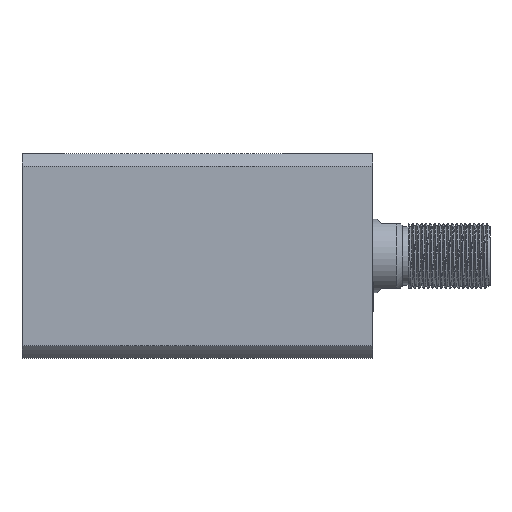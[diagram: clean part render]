
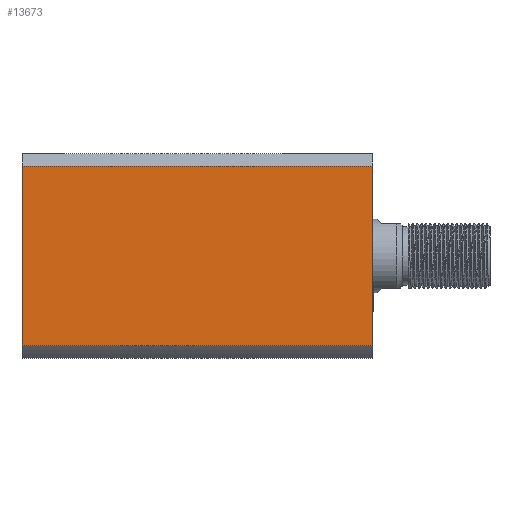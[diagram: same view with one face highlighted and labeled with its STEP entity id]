
A CAD part, left-side view. The second image highlights one B-rep face of the part: STEP entity #13673.
In plain terms, the highlighted planar face has unit normal (-1, 0, 0).
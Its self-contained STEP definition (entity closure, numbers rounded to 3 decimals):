
#84 = CARTESIAN_POINT ( 'NONE',  ( -35., -30.615, 300. ) ) ;
#259 = CARTESIAN_POINT ( 'NONE',  ( -35., 35., 120. ) ) ;
#528 = CARTESIAN_POINT ( 'NONE',  ( -35., 30.615, 0. ) ) ;
#836 = CARTESIAN_POINT ( 'NONE',  ( -35., -30.615, 0. ) ) ;
#1592 = EDGE_LOOP ( 'NONE', ( #13604, #8657, #6106, #12008 ) ) ;
#2096 = VECTOR ( 'NONE', #3049, 1000. ) ;
#2451 = LINE ( 'NONE', #11174, #10527 ) ;
#3049 = DIRECTION ( 'NONE',  ( 0., -1., 0. ) ) ;
#3539 = CARTESIAN_POINT ( 'NONE',  ( -35., -30.615, 120. ) ) ;
#4140 = EDGE_CURVE ( 'NONE', #12681, #12009, #2451, .T. ) ;
#4289 = VERTEX_POINT ( 'NONE', #836 ) ;
#4585 = PLANE ( 'NONE',  #5879 ) ;
#5498 = DIRECTION ( 'NONE',  ( 0., -1., 0. ) ) ;
#5667 = DIRECTION ( 'NONE',  ( 0., 1., 0. ) ) ;
#5879 = AXIS2_PLACEMENT_3D ( 'NONE', #259, #11942, #5667 ) ;
#6106 = ORIENTED_EDGE ( 'NONE', *, *, #4140, .F. ) ;
#6190 = VECTOR ( 'NONE', #11680, 1000. ) ;
#6526 = LINE ( 'NONE', #84, #6190 ) ;
#6725 = EDGE_CURVE ( 'NONE', #10696, #4289, #6526, .T. ) ;
#6741 = CARTESIAN_POINT ( 'NONE',  ( -35., 30.615, 120. ) ) ;
#8657 = ORIENTED_EDGE ( 'NONE', *, *, #13603, .F. ) ;
#9570 = FACE_OUTER_BOUND ( 'NONE', #1592, .T. ) ;
#9688 = CARTESIAN_POINT ( 'NONE',  ( -35., 35., 120. ) ) ;
#9885 = LINE ( 'NONE', #9688, #12359 ) ;
#10400 = CARTESIAN_POINT ( 'NONE',  ( -35., 35., 0. ) ) ;
#10527 = VECTOR ( 'NONE', #12227, 1000. ) ;
#10696 = VERTEX_POINT ( 'NONE', #3539 ) ;
#11174 = CARTESIAN_POINT ( 'NONE',  ( -35., 30.615, 300. ) ) ;
#11680 = DIRECTION ( 'NONE',  ( 0., 0., -1. ) ) ;
#11709 = EDGE_CURVE ( 'NONE', #12681, #4289, #13339, .T. ) ;
#11942 = DIRECTION ( 'NONE',  ( 1., 0., 0. ) ) ;
#12008 = ORIENTED_EDGE ( 'NONE', *, *, #11709, .T. ) ;
#12009 = VERTEX_POINT ( 'NONE', #6741 ) ;
#12227 = DIRECTION ( 'NONE',  ( 0., 0., 1. ) ) ;
#12359 = VECTOR ( 'NONE', #5498, 1000. ) ;
#12681 = VERTEX_POINT ( 'NONE', #528 ) ;
#13339 = LINE ( 'NONE', #10400, #2096 ) ;
#13603 = EDGE_CURVE ( 'NONE', #12009, #10696, #9885, .T. ) ;
#13604 = ORIENTED_EDGE ( 'NONE', *, *, #6725, .F. ) ;
#13673 = ADVANCED_FACE ( 'NONE', ( #9570 ), #4585, .F. ) ;
